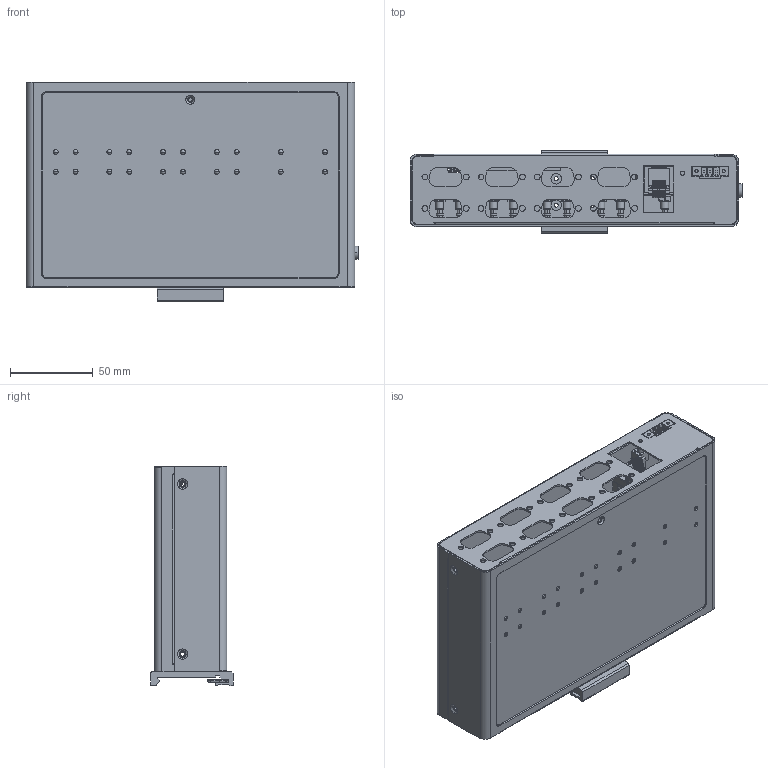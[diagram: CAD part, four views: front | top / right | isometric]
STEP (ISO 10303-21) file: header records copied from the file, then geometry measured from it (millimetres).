
FILE_DESCRIPTION((''),'2;1');
FILE_NAME('00-GCOM88-2NET_ASM','2025-02-10T11:02:42',('hepeizong'),(''),'CREO PARAMETRIC BY PTC INC, 2021404','CREO PARAMETRIC BY PTC INC, 2021404','');
FILE_SCHEMA(('CONFIG_CONTROL_DESIGN','SHAPE_APPEARANCE_LAYERS_GROUPS'));
Products named in the file (68): 02-BOT-COVER-2; NUT-M3; NUT_M3_6; 02-GCOM88-2NET-BOT_ASM; 02-TOP-COVER-2; LUOMU_M40__1_; 02-GCOM88-2NET-TOP_ASM; GAOGUI-1__3_1_1; GAOGUI-2__2_1_1; DAOGUI-_ASM_3_ASM_1_ASM_1_ASM; 01-ME_ASM; 03-MAIN-PCB; 2ERJRM-3P; TS0631-0951B; BREP_1_2; BREP_2_2; BREP_3_2; BREP_4_2; BREP_5_2; BREP_6_2; BREP_7_2; BREP_8_2; BREP_9_2; BREP_10_2; BREP_11_2; BREP_12_2; BREP_13_2; BREP_14_2; BREP_15_2; BREP_16_2; BREP_17_2; BREP_18_2; BREP_19_2; BREP_20_2; BREP_21_2; BREP_22_2; BREP_23_2; BREP_24_2; BREP_25_2; BREP_26_2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
Assembly tree (120 placements, depth 7):
  00-GCOM88-2NET_ASM
    01-ME_ASM
      02-GCOM88-2NET-BOT_ASM
        02-BOT-COVER-2
        NUT-M3  x19
        NUT_M3_6  x4
      02-GCOM88-2NET-TOP_ASM
        02-TOP-COVER-2
        LUOMU_M40__1_
        NUT-M3  x4
      DAOGUI-_ASM_3_ASM_1_ASM_1_ASM
        GAOGUI-1__3_1_1
        GAOGUI-2__2_1_1
    01-PCBA_ASM
      02-GCOM88-2NET-MAIN-PCBA_ASM
        03-MAIN-PCB
        2ERJRM-3P
        TS0631-0951B
        WANGKOU_ASM_ASM
          WANGKOU_ASM_5_ASM
            DOCUMENT_A_ASM_2_ASM
              BREP_1_2
              BREP_2_2
              BREP_3_2
              BREP_4_2
              BREP_5_2
              BREP_6_2
              BREP_7_2
              BREP_8_2
              BREP_9_2
              BREP_10_2
              BREP_11_2
              BREP_12_2
              BREP_13_2
              BREP_14_2
              BREP_15_2
              BREP_16_2
              BREP_17_2
              BREP_18_2
              BREP_19_2
              BREP_20_2
              BREP_21_2
              BREP_22_2
              BREP_23_2
              BREP_24_2
              BREP_25_2
              BREP_26_2
              BREP_27_2
              BREP_28_2
              BREP_29_2
              BREP_30_2
              BREP_31_2
              BREP_32_2
              BREP_33_2
              BREP_34_2
        ST-USB-3316-2_3D_ASM
          0001
          _A10001
          _B10001
          00
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Bounding box: 201 x 50 x 133 mm (x, y, z)
Volume: 146467.9 mm3; surface area: 252401.1 mm2
Topology: 136 solids, 136 shells, 4673 faces, 12377 edges, 7856 vertices
Faces by surface type: plane 2450, cylinder 1735, sphere 200, bspline 120, torus 114, cone 54
Entity records: 92603 total; most frequent: CARTESIAN_POINT 13942, DIRECTION 13355, ORIENTED_EDGE 12618, EDGE_CURVE 6309, AXIS2_PLACEMENT_3D 4526, VECTOR 4303, LINE 4303, VERTEX_POINT 4155
